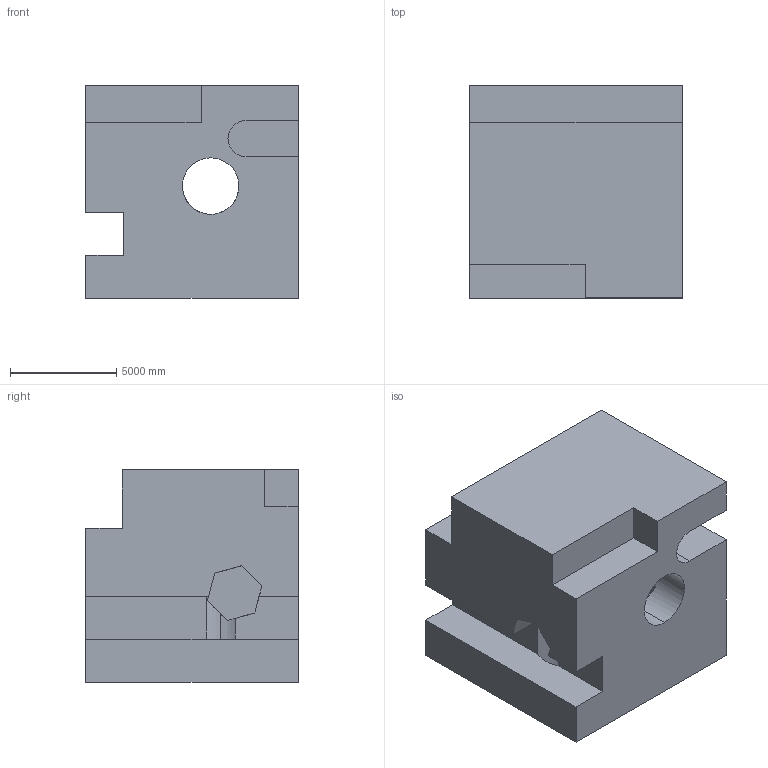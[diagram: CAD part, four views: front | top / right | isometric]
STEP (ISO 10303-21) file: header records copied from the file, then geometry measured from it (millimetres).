
FILE_DESCRIPTION (( 'STEP AP203' ), '1' );
FILE_NAME ('1678.STEP', '2022-08-19T11:39:09', ( 'user' ), ( '' ), 'SwSTEP 2.0', 'SolidWorks 2021', '' );
FILE_SCHEMA (( 'CONFIG_CONTROL_DESIGN' ));
Length unit declared in the file: centimetre
Products named in the file (1): 1678
Bounding box: 10000 x 10000 x 10000 mm (x, y, z)
Volume: 751818839654.4 mm3; surface area: 796167975.5 mm2
Topology: 1 solids, 1 shells, 38 faces, 117 edges, 78 vertices
Faces by surface type: plane 32, cylinder 6
Entity records: 1383 total; most frequent: CARTESIAN_POINT 288, ORIENTED_EDGE 234, DIRECTION 190, EDGE_CURVE 117, VECTOR 86, LINE 86, VERTEX_POINT 78, AXIS2_PLACEMENT_3D 52
